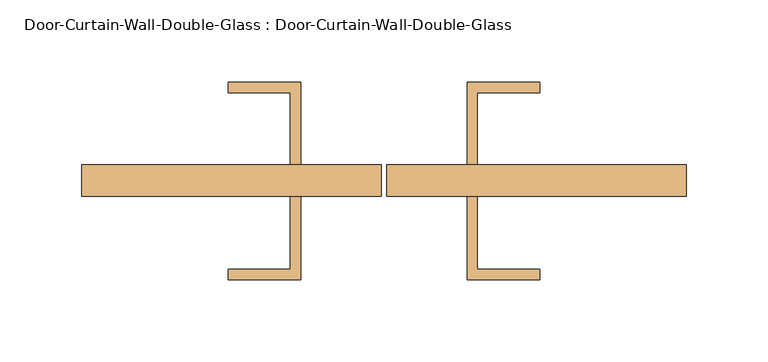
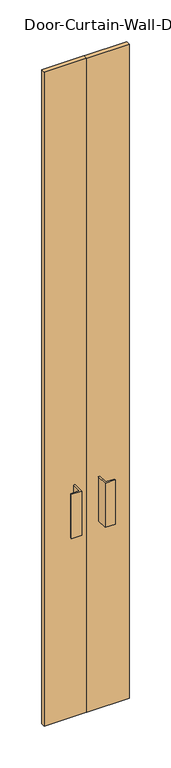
"""IFC4 building model written with IfcOpenShell, lengths in millimetres: door geometry, Door-Curtain-Wall-Double-Glass : Door-Curtain-Wall-Double-Glass."""

import ifcopenshell
import ifcopenshell.guid

model = None  # the IFC model being written
_history = None  # IfcOwnerHistory: only IFC2X3 demands one
_inside = {}  # id of a spatial element -> (the spatial element, [elements in it])
_under = {}  # id of a project, library or spatial element -> (it, [spatial elements below it])
_declared = {}  # id of a project -> (the project, [libraries it declares])
_typed = {}  # id of a type object -> (the type object, [elements of that type])
_made_of = {}  # id of a material, layer set ... -> (it, [elements and type objects made of it])


def new_model(schema):
    """Start an empty IFC model of exactly this schema.

    Asked for "IFC4X3", IfcOpenShell would pick the latest addendum, in which some entities
    have other attributes; the version numbers below select the first issue.
    IFC2X3 requires an IfcOwnerHistory on every rooted entity: one is made here for all.
    """
    global model, _history
    if schema == "IFC4X3":
        model = ifcopenshell.file(schema_version=(4, 3, 0, 0))
    else:
        model = ifcopenshell.file(schema=schema)
    _inside.clear()
    _under.clear()
    _declared.clear()
    _typed.clear()
    _made_of.clear()
    _history = None
    if model.schema == "IFC2X3":
        org = make("IfcOrganization", Name="unknown")
        user = make(
            "IfcPersonAndOrganization",
            ThePerson=make("IfcPerson", FamilyName="unknown"),
            TheOrganization=org,
        )
        app = make(
            "IfcApplication",
            ApplicationDeveloper=org,
            Version="unknown",
            ApplicationFullName="unknown",
            ApplicationIdentifier="unknown",
        )
        _history = make(
            "IfcOwnerHistory",
            OwningUser=user,
            OwningApplication=app,
            ChangeAction="ADDED",
            CreationDate=0,
        )
    return model


def make(cls, **values):
    """One entity of the class cls with the attributes given. An attribute that is None is left unset."""
    return model.create_entity(
        cls, **{name: value for name, value in values.items() if value is not None}
    )


def rooted(cls, **values):
    """An entity with a GlobalId (a new one), such as an element, a storey or a relation."""
    return make(cls, GlobalId=ifcopenshell.guid.new(), OwnerHistory=_history, **values)


def si_unit(unit_type, name, prefix=None):
    """IfcSIUnit, for example si_unit("LENGTHUNIT", "METRE", prefix="MILLI")."""
    return make("IfcSIUnit", UnitType=unit_type, Prefix=prefix, Name=name)


def assignment(units):
    """IfcUnitAssignment: the units of a project."""
    return None if units is None else make("IfcUnitAssignment", Units=units)


def point(xyz):
    """IfcCartesianPoint."""
    return None if xyz is None else make("IfcCartesianPoint", Coordinates=xyz)


def direction(xyz):
    """IfcDirection."""
    return None if xyz is None else make("IfcDirection", DirectionRatios=xyz)


def frame(location, z_axis=None, x_axis=None):
    """IfcAxis2Placement3D, a coordinate frame: its origin and axes. An axis left out is left unset."""
    return make(
        "IfcAxis2Placement3D",
        Location=point(location),
        Axis=direction(z_axis),
        RefDirection=direction(x_axis),
    )


def origin():
    """The frame at (0, 0, 0) with its axes left unset."""
    return frame((0.0, 0.0, 0.0))


def origin_with_axes():
    """The frame at (0, 0, 0) with the z axis (0, 0, 1) and the x axis (1, 0, 0) written out."""
    return frame((0.0, 0.0, 0.0), z_axis=(0.0, 0.0, 1.0), x_axis=(1.0, 0.0, 0.0))


def place(relative_to, where):
    """IfcLocalPlacement: puts the frame where relative to a parent placement (None: the world)."""
    return make(
        "IfcLocalPlacement", PlacementRelTo=relative_to, RelativePlacement=where
    )


def context(
    kind, dimensions, precision=None, world=None, true_north=None, identifier=None
):
    """IfcGeometricRepresentationContext, for example the 3D "Model" context."""
    return make(
        "IfcGeometricRepresentationContext",
        ContextIdentifier=identifier,
        ContextType=kind,
        CoordinateSpaceDimension=dimensions,
        Precision=precision,
        WorldCoordinateSystem=world,
        TrueNorth=true_north,
    )


def project(units=None, contexts=None):
    """IfcProject with its units and contexts."""
    return rooted(
        "IfcProject",
        Name="project",
        RepresentationContexts=contexts,
        UnitsInContext=assignment(units),
    )


def spatial(cls, under=None, at=None, **own):
    """A site, building, storey or space (cls), placed at a placement, below another one or the project."""
    s = rooted(cls, ObjectPlacement=at, **own)
    if under is not None:
        _under.setdefault(under.id(), (under, []))[1].append(s)
    return s


def polyline(points):
    """IfcPolyline through the points."""
    return make("IfcPolyline", Points=[point(p) for p in points])


def outline(outer, holes=None, kind="AREA"):
    """IfcArbitraryClosedProfileDef: a profile drawn as a closed curve; with holes, ...WithVoids."""
    if holes is None:
        return make("IfcArbitraryClosedProfileDef", ProfileType=kind, OuterCurve=outer)
    return make(
        "IfcArbitraryProfileDefWithVoids",
        ProfileType=kind,
        OuterCurve=outer,
        InnerCurves=holes,
    )


def extrude(swept, where, along, depth):
    """IfcExtrudedAreaSolid: the profile swept, set in the frame where, extruded along a direction by depth."""
    return make(
        "IfcExtrudedAreaSolid",
        SweptArea=swept,
        Position=where,
        ExtrudedDirection=direction(along),
        Depth=depth,
    )


def shape(context_of_items, identifier, shape_type, items):
    """IfcShapeRepresentation: the items that make up one representation, for example the "Body"."""
    return make(
        "IfcShapeRepresentation",
        ContextOfItems=context_of_items,
        RepresentationIdentifier=identifier,
        RepresentationType=shape_type,
        Items=items,
    )


def source(mapping_origin, context_of_items, identifier, shape_type, items):
    """IfcRepresentationMap: a shape defined once, which mapped items show again and again."""
    return make(
        "IfcRepresentationMap",
        MappingOrigin=mapping_origin,
        MappedRepresentation=shape(context_of_items, identifier, shape_type, items),
    )


def transform(
    local_origin,
    x_axis=None,
    y_axis=None,
    z_axis=None,
    scale=None,
    scale2=None,
    scale3=None,
    uniform=True,
):
    """IfcCartesianTransformationOperator3D, or its non-uniform kind. x_axis, y_axis, z_axis: its Axis1, 2, 3."""
    if uniform:
        return make(
            "IfcCartesianTransformationOperator3D",
            Axis1=direction(x_axis),
            Axis2=direction(y_axis),
            LocalOrigin=point(local_origin),
            Scale=scale,
            Axis3=direction(z_axis),
        )
    return make(
        "IfcCartesianTransformationOperator3DnonUniform",
        Axis1=direction(x_axis),
        Axis2=direction(y_axis),
        LocalOrigin=point(local_origin),
        Scale=scale,
        Axis3=direction(z_axis),
        Scale2=scale2,
        Scale3=scale3,
    )


def mapped(mapping_source, mapping_target):
    """IfcMappedItem: shows the shape of a source again, moved by a transform."""
    return make(
        "IfcMappedItem", MappingSource=mapping_source, MappingTarget=mapping_target
    )


def made_of(thing, what):
    """Note that an element or type object is made of a material, layer set ...; save() writes the relation."""
    if what is not None:
        _made_of.setdefault(what.id(), (what, []))[1].append(thing)
    return thing


def element(
    cls,
    number,
    at=None,
    inside=None,
    cuts=None,
    type_object=None,
    material=None,
    context=None,
    identifier="Body",
    shape_type=None,
    held_by="IfcProductDefinitionShape",
    body=None,
    shapes=None,
    **own,
):
    """One element of the class cls, such as IfcWall. Its Tag is "e" and its number.

    at: its placement. inside: the storey or other place that contains it. cuts: it is an
    opening in that element (IfcRelVoidsElement). A single representation is given by context,
    identifier, shape_type and body (its items); several are given by shapes. held_by: the class
    of the entity that holds the representations. save() writes the other relations.
    """
    e = rooted(cls, Tag="e%d" % number, ObjectPlacement=at, **own)
    if body is not None:
        shapes = [shape(context, identifier, shape_type, body)]
    if shapes is not None:
        e.Representation = make(held_by, Representations=shapes)
    if inside is not None:
        _inside.setdefault(inside.id(), (inside, []))[1].append(e)
    if cuts is not None:
        rooted(
            "IfcRelVoidsElement", RelatingBuildingElement=cuts, RelatedOpeningElement=e
        )
    if type_object is not None:
        _typed.setdefault(type_object.id(), (type_object, []))[1].append(e)
    return made_of(e, material)


def aggregate(whole, parts):
    """IfcRelAggregates: a whole, such as a stair, and the parts it consists of."""
    return rooted("IfcRelAggregates", RelatingObject=whole, RelatedObjects=parts)


def save(model, path):
    """Write the relations noted so far, then the file.

    IfcRelAggregates (storeys below a building ...), IfcRelContainedInSpatialStructure (elements
    in a storey), IfcRelDefinesByType, IfcRelAssociatesMaterial and IfcRelDeclares: one each for
    every whole, place, type object, material and project.
    """
    for whole, parts in _under.values():
        aggregate(whole, parts)
    for where, things in _inside.values():
        rooted(
            "IfcRelContainedInSpatialStructure",
            RelatedElements=things,
            RelatingStructure=where,
        )
    for kind, things in _typed.values():
        rooted("IfcRelDefinesByType", RelatedObjects=things, RelatingType=kind)
    for what, things in _made_of.values():
        rooted("IfcRelAssociatesMaterial", RelatedObjects=things, RelatingMaterial=what)
    for by, libraries in _declared.values():
        rooted("IfcRelDeclares", RelatingContext=by, RelatedDefinitions=libraries)
    model.write(path)


def door_curtain_wall_double_glass_door_curtain_wall_double_37eb0fd1(model_context):
    return source(origin(), model_context, "Body", "SweptSolid", [
        extrude(outline(polyline([(-1.6143999, -31.75), (-1.6143999, -50.8), (-184.7084884, -50.8), (-184.7084884, -31.75), (-1.6143999, -31.75)])), origin_with_axes(), (0.0, 0.0, 1.0), 3009.9),
        extrude(outline(polyline([(184.7084884, -31.75), (184.7084884, -50.8), (1.5606001, -50.8), (1.5606001, -31.75), (184.7084884, -31.75)])), origin_with_axes(), (0.0, 0.0, 1.0), 3009.9),
        extrude(outline(polyline([(-50.8268999, -101.6), (-95.2768999, -101.6), (-95.2768999, -95.25), (-57.1768999, -95.25), (-57.1768999, -50.8), (-50.8268999, -50.8), (-50.8268999, -101.6)])), frame((0.0, 0.0, 863.6), z_axis=(0.0, 0.0, 1.0), x_axis=(1.0, 0.0, 0.0)), (0.0, 0.0, 1.0), 203.2),
        extrude(outline(polyline([(50.7731001, -101.6), (50.7731001, -50.8), (57.1231001, -50.8), (57.1231001, -95.25), (95.2231001, -95.25), (95.2231001, -101.6), (50.7731001, -101.6)])), frame((0.0, 0.0, 863.6), z_axis=(0.0, 0.0, 1.0), x_axis=(1.0, 0.0, 0.0)), (0.0, 0.0, 1.0), 203.2),
        extrude(outline(polyline([(-50.8268999, 19.05), (-50.8268999, -31.75), (-57.1768999, -31.75), (-57.1768999, 12.7), (-95.2768999, 12.7), (-95.2768999, 19.05), (-50.8268999, 19.05)])), frame((0.0, 0.0, 863.6), z_axis=(0.0, 0.0, 1.0), x_axis=(1.0, 0.0, 0.0)), (0.0, 0.0, 1.0), 203.2),
        extrude(outline(polyline([(50.7731001, 19.05), (95.2231001, 19.05), (95.2231001, 12.7), (57.1231001, 12.7), (57.1231001, -31.75), (50.7731001, -31.75), (50.7731001, 19.05)])), frame((0.0, 0.0, 863.6), z_axis=(0.0, 0.0, 1.0), x_axis=(1.0, 0.0, 0.0)), (0.0, 0.0, 1.0), 203.2),
    ])


if __name__ == "__main__":
    model = new_model("IFC4")
    model_context = context("Model", 3, world=origin())
    ifc_project = project(units=[si_unit("LENGTHUNIT", "METRE", prefix="MILLI")], contexts=[model_context])
    site = spatial("IfcSite", under=ifc_project)
    building = spatial("IfcBuilding", under=site)
    placement = place(None, origin())
    door_curtain_wall_double_glass_door_curtain_wall_double_shape = door_curtain_wall_double_glass_door_curtain_wall_double_37eb0fd1(model_context)
    element("IfcDoor", 1, ObjectType="Door-Curtain-Wall-Double-Glass : Door-Curtain-Wall-Double-Glass", at=placement, inside=building, context=model_context, shape_type="MappedRepresentation", body=[
        mapped(door_curtain_wall_double_glass_door_curtain_wall_double_shape, transform((0.0, 0.0, 0.0), x_axis=(1.0, 0.0, 0.0), y_axis=(0.0, 1.0, 0.0), z_axis=(0.0, 0.0, 1.0))),
    ])
    save(model, "model.ifc")
